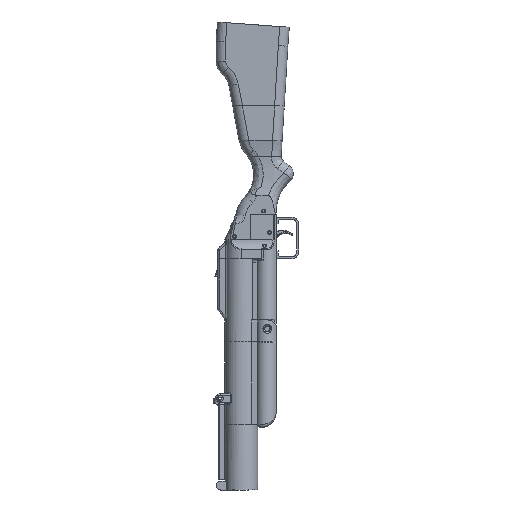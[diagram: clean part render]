
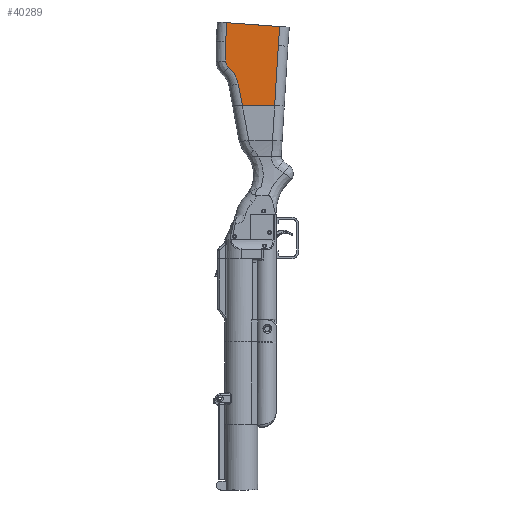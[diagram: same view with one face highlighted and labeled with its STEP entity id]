
A CAD part, left-side view. The second image highlights one B-rep face of the part: STEP entity #40289.
In plain terms, the highlighted planar face has unit normal (-1, 0, 0).
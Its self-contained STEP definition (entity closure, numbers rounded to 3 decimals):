
#1972=CIRCLE('',#43538,12.308);
#1973=CIRCLE('',#43539,46.105);
#4908=FACE_OUTER_BOUND('',#7309,.T.);
#7309=EDGE_LOOP('',(#32404,#32405,#32406,#32407,#32408,#32409,#32410,#32411,
#32412));
#10233=LINE('',#82323,#14057);
#10346=LINE('',#82677,#14170);
#10347=LINE('',#82688,#14171);
#10354=LINE('',#82711,#14178);
#10447=LINE('',#83000,#14271);
#10448=LINE('',#83003,#14272);
#10449=LINE('',#83005,#14273);
#14057=VECTOR('',#49996,10.);
#14170=VECTOR('',#50257,10.);
#14171=VECTOR('',#50260,10.);
#14178=VECTOR('',#50277,10.);
#14271=VECTOR('',#50584,10.);
#14272=VECTOR('',#50589,10.);
#14273=VECTOR('',#50590,10.);
#18069=VERTEX_POINT('',#82320);
#18070=VERTEX_POINT('',#82322);
#18212=VERTEX_POINT('',#82673);
#18213=VERTEX_POINT('',#82675);
#18214=VERTEX_POINT('',#82684);
#18216=VERTEX_POINT('',#82687);
#18270=VERTEX_POINT('',#82999);
#18271=VERTEX_POINT('',#83004);
#18272=VERTEX_POINT('',#83006);
#22941=EDGE_CURVE('',#18070,#18069,#10233,.T.);
#23101=EDGE_CURVE('',#18212,#18213,#10346,.T.);
#23103=EDGE_CURVE('',#18214,#18216,#10347,.T.);
#23113=EDGE_CURVE('',#18216,#18213,#10354,.T.);
#23248=EDGE_CURVE('',#18070,#18270,#10447,.T.);
#23250=EDGE_CURVE('',#18212,#18069,#10448,.T.);
#23251=EDGE_CURVE('',#18271,#18214,#10449,.T.);
#23252=EDGE_CURVE('',#18272,#18271,#1972,.T.);
#23253=EDGE_CURVE('',#18270,#18272,#1973,.T.);
#32404=ORIENTED_EDGE('',*,*,#22941,.T.);
#32405=ORIENTED_EDGE('',*,*,#23250,.F.);
#32406=ORIENTED_EDGE('',*,*,#23101,.T.);
#32407=ORIENTED_EDGE('',*,*,#23113,.F.);
#32408=ORIENTED_EDGE('',*,*,#23103,.F.);
#32409=ORIENTED_EDGE('',*,*,#23251,.F.);
#32410=ORIENTED_EDGE('',*,*,#23252,.F.);
#32411=ORIENTED_EDGE('',*,*,#23253,.F.);
#32412=ORIENTED_EDGE('',*,*,#23248,.F.);
#38305=PLANE('',#43537);
#40289=ADVANCED_FACE('',(#4908),#38305,.F.);
#43537=AXIS2_PLACEMENT_3D('',#83002,#50587,#50588);
#43538=AXIS2_PLACEMENT_3D('',#83007,#50591,#50592);
#43539=AXIS2_PLACEMENT_3D('',#83008,#50593,#50594);
#49996=DIRECTION('',(0.,-1.,0.));
#50257=DIRECTION('',(0.,-0.073,0.997));
#50260=DIRECTION('',(0.,-0.073,0.997));
#50277=DIRECTION('',(0.,-0.997,-0.073));
#50584=DIRECTION('',(0.,0.184,0.983));
#50587=DIRECTION('center_axis',(1.,0.,0.));
#50588=DIRECTION('ref_axis',(0.,0.,-1.));
#50589=DIRECTION('',(0.,0.061,-0.998));
#50590=DIRECTION('',(0.,0.,1.));
#50591=DIRECTION('center_axis',(1.,0.,0.));
#50592=DIRECTION('ref_axis',(0.,0.907,-0.42));
#50593=DIRECTION('center_axis',(-1.,0.,0.));
#50594=DIRECTION('ref_axis',(0.,-0.864,0.503));
#82320=CARTESIAN_POINT('',(0.,26.716,53.849));
#82322=CARTESIAN_POINT('',(0.,77.317,53.849));
#82323=CARTESIAN_POINT('',(0.,29.065,53.849));
#82673=CARTESIAN_POINT('',(0.,20.941,148.58));
#82675=CARTESIAN_POINT('',(0.,18.739,178.499));
#82677=CARTESIAN_POINT('',(0.,20.941,148.58));
#82684=CARTESIAN_POINT('',(0.,103.675,154.67));
#82687=CARTESIAN_POINT('',(0.,101.473,184.589));
#82688=CARTESIAN_POINT('',(0.,103.675,154.67));
#82711=CARTESIAN_POINT('',(0.,119.009,185.88));
#82999=CARTESIAN_POINT('',(0.,83.767,88.306));
#83000=CARTESIAN_POINT('',(0.,67.866,3.364));
#83002=CARTESIAN_POINT('Origin',(0.,58.13,5.812));
#83003=CARTESIAN_POINT('',(0.,25.351,76.237));
#83004=CARTESIAN_POINT('',(0.,103.675,124.448));
#83005=CARTESIAN_POINT('',(0.,103.675,65.134));
#83006=CARTESIAN_POINT('',(0.,99.314,115.028));
#83007=CARTESIAN_POINT('Origin',(0.,91.367,124.427));
#83008=CARTESIAN_POINT('Origin',(0.,129.084,79.823));
